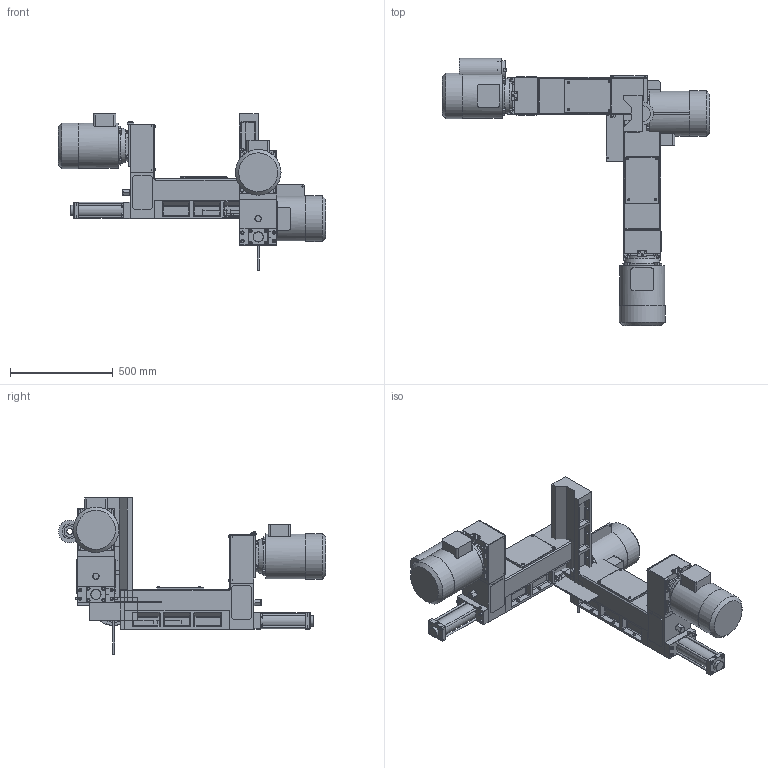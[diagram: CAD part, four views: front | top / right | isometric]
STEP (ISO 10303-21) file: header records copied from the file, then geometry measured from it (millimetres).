
FILE_DESCRIPTION( ( 'STEP AP203' ), '1' );
FILE_NAME( 'C:/Documents and Settings/Saverio/Desktop/disegni ironcad/UNITA'/unità serie 3/FI340/FI 340_P.stp', '2014-03-31T08:18:37', ( ' ' ), ( ' ' ), 'XStep 1.0', ' ', ' ' );
FILE_SCHEMA( ( 'CONFIG_CONTROL_DESIGN' ) );
Length unit declared in the file: metre
Products named in the file (49): Assem1; Assem2; Assem3; 1; 2; 3; 4; 5; 6; 7; 8; 9; 10; 11; 12; 13; 14; 15; 16; 17; 18; 19; 20; 21; 22; 23; 24; 25; 26; 27; 28; 29; 30; 31; 32; 33; 34; 35; 36; 37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
Bounding box: 1300.5 x 1299.96 x 760 mm (x, y, z)
Volume: 98390238.9 mm3; surface area: 6848827.9 mm2
Topology: 138 solids, 138 shells, 3240 faces, 7218 edges, 4338 vertices
Faces by surface type: plane 2019, cylinder 651, cone 384, sphere 156, torus 24, bspline 6
Full cylindrical faces by diameter (mm): 5 x24, 6 x27, 6.5 x33, 6.637 x12, 6.647 x12, 8.366 x3, 9.87 x9, 10 x36, 10.25 x12, 10.5 x18, 14.5 x18, 15.835 x12, 16 x12, 16.6 x12, 17.9 x3, 27 x3, 28 x3, 30 x3, 36.4 x3, 50 x3, 55 x3, 73 x3, 76 x3, 78 x3, 88 x3, 88.882 x3, 89.8 x3, 90 x3, 110 x12, 120 x6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
Entity records: 30269 total; most frequent: CARTESIAN_POINT 5408, DIRECTION 4859, ORIENTED_EDGE 4154, EDGE_CURVE 2077, AXIS2_PLACEMENT_3D 1764, EDGE_LOOP 1419, VERTEX_POINT 1387, LINE 1331
